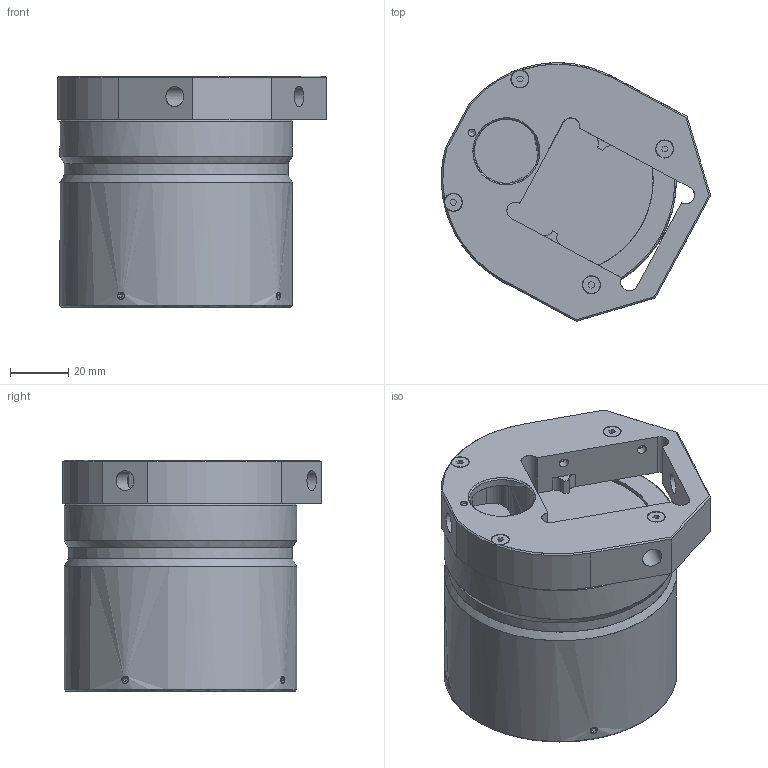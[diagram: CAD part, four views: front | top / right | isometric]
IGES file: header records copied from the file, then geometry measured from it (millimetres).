
Global section: file name: \\renishaw.com\global\GB\PLC\Common\UserDocs\Gloucestershire\MTPD\MTPProdMktg\dt138139\Desktop\CAD Models\LA_9908_0604_01_A.igs; native system: NX V10.0; preprocessor: SIEMENS PLM Software NX 10.0; date: 20180718.103608; units: millimetre
Bounding box: 92.58 x 88.97 x 79.6 mm (x, y, z)
Surface area: 81984 mm2 (no closed solid volume)
Topology: 0 solids, 0 shells, 715 faces, 4634 edges, 4552 vertices
Faces by surface type: bspline 715
